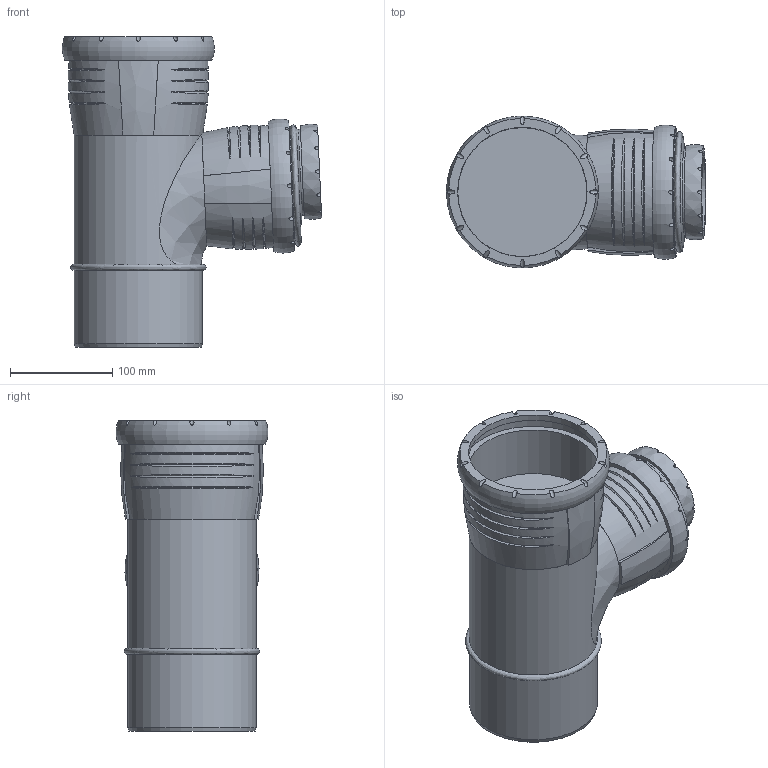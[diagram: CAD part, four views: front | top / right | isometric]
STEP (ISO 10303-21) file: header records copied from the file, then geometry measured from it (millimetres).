
FILE_DESCRIPTION(/* description */ (''),/* implementation_level */ '2;1');
FILE_NAME(/* name */ 'H:\Geberit-Teile\Export\Abzweig PP\stp\393654.stp',/* time_stamp */ '2017-02-13T13:24:21+01:00',/* author */ ('seihe2'),/* organization */ (''),/* preprocessor_version */ 'ST-DEVELOPER v15.2',/* originating_system */ 'Autodesk Inventor 2014',/* authorisation */ '');
FILE_SCHEMA (('AUTOMOTIVE_DESIGN { 1 0 10303 214 3 1 1 }'));
Length unit declared in the file: millimetre
Products named in the file (1): 393654
Bounding box: 253.09 x 148.35 x 303 mm (x, y, z)
Volume: 3167977.2 mm3; surface area: 436510 mm2
Topology: 6 solids, 6 shells, 141 faces, 334 edges, 233 vertices
Faces by surface type: cylinder 57, bspline 49, plane 30, cone 3, torus 2
Full cylindrical faces by diameter (mm): 75.9 x1, 76.2 x1, 84 x1, 85 x1, 90 x1, 95.978 x1, 101.2 x1, 110.2 x1, 111 x1, 111.3 x1, 115.2 x1, 121.5 x1, 125.2 x2, 126 x1, 126.4 x1, 138.1 x1
Entity records: 9307 total; most frequent: CARTESIAN_POINT 6283, ORIENTED_EDGE 612, DIRECTION 501, EDGE_CURVE 305, AXIS2_PLACEMENT_3D 243, VERTEX_POINT 225, EDGE_LOOP 196, STYLED_ITEM 146
